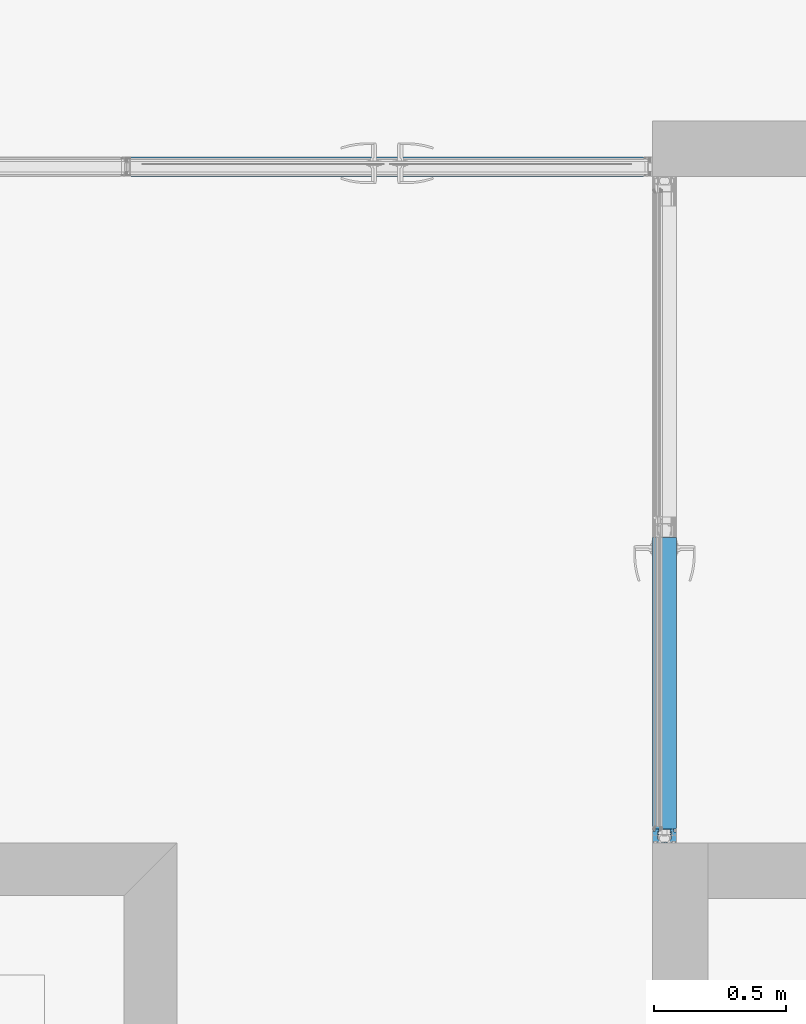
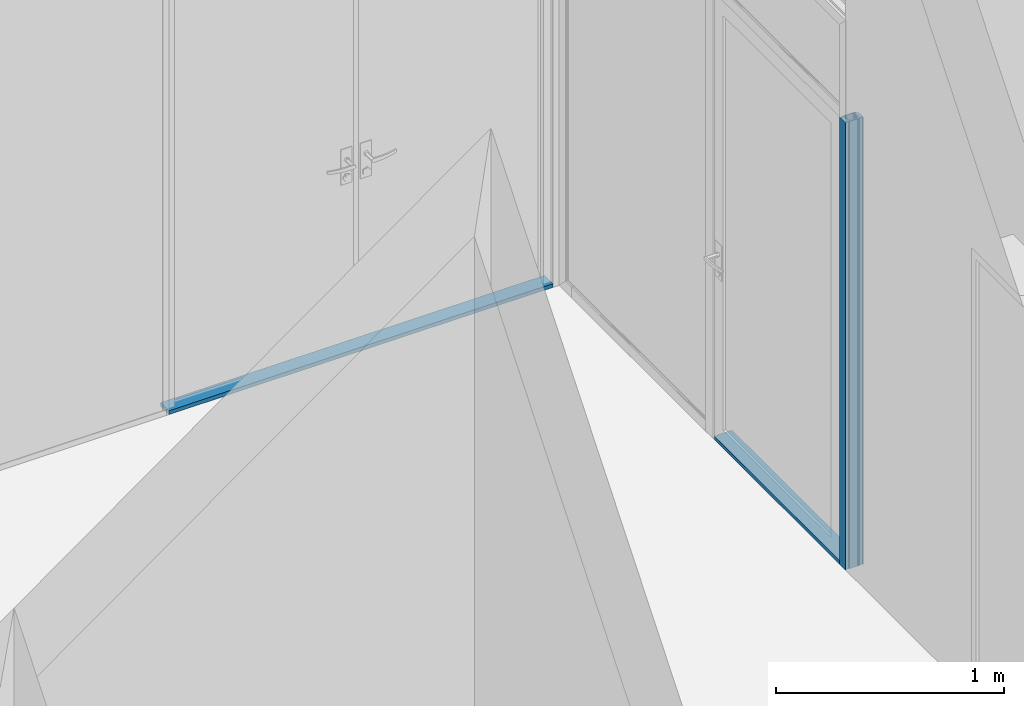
# One storey, part 6 of 62: 3 members, 2 elements without a shape of their own.
"""IFC2X3 building model written with IfcOpenShell, lengths in millimetres."""

from ifc_helpers import new_model, entity, si_unit, converted_unit, derived_unit, money_unit, direction, frame, origin_with_axes, place, context, subcontext, project, spatial, polyline, outline, extrude, material, type_object, element, aggregate, save


model = new_model("IFC2X3")

# Units and contexts
model_context = context("Model", 3, precision=0.01, world=origin_with_axes(), true_north=direction((0.0, 1.0)))
body_context = subcontext(model_context, "Body", "Model", "MODEL_VIEW")
ifc_project = project(units=[si_unit("LENGTHUNIT", "METRE", prefix="MILLI"), si_unit("AREAUNIT", "SQUARE_METRE"), si_unit("VOLUMEUNIT", "CUBIC_METRE"), converted_unit("PLANEANGLEUNIT", "DEGREE", entity("IfcPlaneAngleMeasure", 0.0174532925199), si_unit("PLANEANGLEUNIT", "RADIAN"), dimensions=[0, 0, 0, 0, 0, 0, 0]), si_unit("SOLIDANGLEUNIT", "STERADIAN"), money_unit("EUR"), converted_unit("TIMEUNIT", "Year", entity("IfcTimeMeasure", 31556926.0), si_unit("TIMEUNIT", "SECOND"), dimensions=[0, 0, 1, 0, 0, 0, 0]), si_unit("MASSUNIT", "GRAM", prefix="KILO"), si_unit("THERMODYNAMICTEMPERATUREUNIT", "DEGREE_CELSIUS"), si_unit("LUMINOUSINTENSITYUNIT", "LUMEN"), si_unit("ENERGYUNIT", "JOULE", prefix="MEGA"), derived_unit("THERMALCONDUCTANCEUNIT", [(si_unit("POWERUNIT", "WATT"), 1), (si_unit("LENGTHUNIT", "METRE"), -1), (si_unit("THERMODYNAMICTEMPERATUREUNIT", "KELVIN"), -1)]), derived_unit("SPECIFICHEATCAPACITYUNIT", [(si_unit("ENERGYUNIT", "JOULE"), 1), (si_unit("MASSUNIT", "GRAM", prefix="KILO"), -1), (si_unit("THERMODYNAMICTEMPERATUREUNIT", "KELVIN"), -1)]), derived_unit("MASSDENSITYUNIT", [(si_unit("MASSUNIT", "GRAM", prefix="KILO"), 1), (si_unit("VOLUMEUNIT", "CUBIC_METRE"), -1)])], contexts=[model_context])

# Site, building, storey
site_placement = place(None, origin_with_axes())
site = spatial("IfcSite", under=ifc_project, at=site_placement, Name="Puškini 31, Narva", CompositionType="ELEMENT")
building_placement = place(site_placement, origin_with_axes())
building = spatial("IfcBuilding", under=site, at=building_placement, Name="Narva Riigigümnaasium", CompositionType="ELEMENT")
storey_placement = place(building_placement, frame((0.0, 0.0, 660.0), z_axis=(0.0, 0.0, 1.0), x_axis=(1.0, 0.0, 0.0)))
storey = spatial("IfcBuildingStorey", under=building, at=storey_placement, Name="2.korrus +0.66", CompositionType="ELEMENT", Elevation=660.0)

# Curtain wall, members
curtain_wall_type = type_object("IfcCurtainWallType", Name="Curtain Wall Type", PredefinedType="NOTDEFINED")
curtain_wall_1_placement = place(storey_placement, frame((47544.998162, 221675.502168, -2.45869393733e-05), z_axis=(0.0, 0.0, 1.0), x_axis=(1.0, 0.0, 0.0)))
curtain_wall_1 = element("IfcCurtainWall", 1, at=curtain_wall_1_placement, inside=storey, type_object=curtain_wall_type, Name="G-SKLF-51")
ifc_material_1 = material(Name="ET-04_Alumiinium")
member_type_1 = type_object("IfcMemberType", Name="53 x 45", PredefinedType="MULLION")
member_1_placement = place(curtain_wall_1_placement, frame((0.00169612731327, -395.502325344, 0.0), z_axis=(0.0, 3.10440855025e-09, 1.0), x_axis=(-4.28853941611e-06, 0.999999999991, -3.10440855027e-09)))
member_1 = element("IfcMember", 2, at=member_1_placement, type_object=member_type_1, material=ifc_material_1, Name="G-SKLF-66-raam", ObjectType="MULLION", context=body_context, shape_type="SweptSolid", body=[
    extrude(outline(polyline([(40.4999927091, 1.70017368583), (41.5999999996, 0.000178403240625), (44.9999999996, 0.000192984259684), (44.9998220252, 41.5001929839), (36.199819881, 42.0001552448), (35.6997739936, 52.7001531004), (27.3997718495, 53.2001175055), (26.8998208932, 41.7641153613), (26.8998322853, 39.1077111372), (25.2466282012, 38.5812008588), (23.0016277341, 39.0000982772), (22.5016158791, 41.7644552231), (22.0016037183, 44.6000939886), (22.5015957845, 46.4500961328), (20.7016320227, 38.0000884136), (26.049905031, 36.9092037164), (26.2498606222, 32.5001125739), (22.6713959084, 33.3733023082), (20.8998567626, 33.4000896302), (20.6998653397, 31.4000887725), (22.4998653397, 31.4000964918), (25.3998730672, 29.59818514), (26.4979539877, 28.5001136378), (26.8998842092, 27.0001153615), (26.8999357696, 14.9772698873), (17.4195421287, 8.77605065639), (14.4499626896, 8.70006196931), (14.9499669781, 7.70006411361), (17.2399720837, 6.50954834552), (18.7399901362, 2.30008036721), (15.8499923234, 1.79006797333), (21.6999991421, 0.200093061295), (20.4999948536, 1.20008791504), (20.4999884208, 2.70008791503), (24.9999862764, 3.20010721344), (25.4999969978, 0.700109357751), (29.499999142, 0.200126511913), (27.9999927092, 1.70012007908), (26.9999828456, 4.00011579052), (41.9999785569, 5.0001801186), (42.9999884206, 2.70018440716), (40.4999927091, 1.70017368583)])), frame((0.0, 0.0, 0.0), z_axis=(0.0, 0.0, 1.0), x_axis=(-4.28853941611e-06, -0.999999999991, 0.0)), (0.0, 0.0, 1.0), 2400.00002459),
    extrude(outline(polyline([(11.5049479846, 2.40004933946), (-12.0049691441, 2.53392311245), (-13.3524988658, 4.59994273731), (-17.240027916, 6.50940047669), (-18.7400098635, 2.29991963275), (-15.8400077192, 1.79993206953), (15.0399991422, 0.200064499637), (18.2399922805, 1.80007822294), (18.7399757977, 5.64352937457), (15.1571568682, 5.3185695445), (11.5049479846, 2.40004933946)])), frame((0.0, 0.0, 0.0), z_axis=(0.0, 0.0, 1.0), x_axis=(-4.28853941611e-06, -0.999999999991, 0.0)), (0.0, 0.0, 1.0), 2400.00002459),
    extrude(outline(polyline([(-27.2132043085, 44.2348751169), (-24.7001796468, 43.1998940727), (-23.0049628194, 43.7247786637), (-22.7001913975, 47.2499026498), (-21.2001922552, 47.4499090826), (-21.0002040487, 50.1999099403), (20.7997726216, 50.4000892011), (20.9997844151, 47.6500900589), (22.4997852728, 47.4500964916), (22.6997974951, 44.6000973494), (24.699809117, 43.2001059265), (26.3950259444, 43.7249905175), (26.6997718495, 53.2001145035), (-26.7002281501, 53.1998854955), (-27.2132043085, 44.2348751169)])), frame((0.0, 0.0, 0.0), z_axis=(0.0, 0.0, 1.0), x_axis=(-4.28853941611e-06, -0.999999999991, 0.0)), (0.0, 0.0, 1.0), 2400.00002459),
    extrude(outline(polyline([(-44.9999999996, -0.000192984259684), (-41.5999999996, -0.000178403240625), (-40.500004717, 1.09982631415), (-42.0000072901, 1.69981988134), (-43.0000171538, 3.99981559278), (-28.0000214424, 4.99987992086), (-27.0000115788, 2.69988420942), (-30.5000072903, 1.69986919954), (-26.0000008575, 0.199888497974), (-25.5000115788, 2.69989064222), (-21.0000137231, 3.19990994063), (-20.5000051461, 1.19991208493), (-22.200005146, 1.19990479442), (-15.8500008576, 0.199932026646), (-18.5500076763, 1.78992044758), (-18.7500265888, 6.19991958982), (-15.1572024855, 5.31843954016), (-17.154657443, 8.69992643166), (-26.6650220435, 14.5530161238), (-26.9001157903, 26.999884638), (-26.4981984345, 28.4998863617), (-25.4001269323, 29.5979672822), (-23.900128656, 29.9998975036), (-20.70013466, 31.3999112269), (-20.7001423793, 33.1999112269), (-22.5716822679, 33.3999032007), (-25.050137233, 31.9998925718), (-26.2501574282, 36.7089794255), (-22.6658818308, 36.9089947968), (-20.7019319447, 46.6999108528), (-22.501910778, 41.7642622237), (-22.5019010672, 39.4999031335), (-24.8402241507, 38.9998931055), (-26.4939867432, 38.5795135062), (-26.9001791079, 41.7642437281), (-27.4001912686, 44.5998824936), (-26.9002260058, 52.6998846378), (-35.20022815, 53.1998490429), (-35.7001822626, 42.4998468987), (-42.2001801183, 41.9998190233), (-42.7002281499, 53.1998168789), (-45.0002281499, 53.1998070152), (-44.9999999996, -0.000192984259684)])), frame((0.0, 0.0, 0.0), z_axis=(0.0, 0.0, 1.0), x_axis=(-4.28853941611e-06, -0.999999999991, 0.0)), (0.0, 0.0, 1.0), 2400.00002459),
])
ifc_material_2 = material(Name="Alumiiniumprofiil")
member_type_2 = type_object("IfcMemberType", Name="20 x 90", PredefinedType="MULLION")
member_2_placement = place(curtain_wall_1_placement, frame((-0.00325715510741, 759.502197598, 0.0), z_axis=(4.28853941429e-06, -0.999999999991, 0.0), x_axis=(0.0, 0.0, 1.0)))
member_2 = element("IfcMember", 3, at=member_2_placement, type_object=member_type_2, material=ifc_material_2, Name="G-SKLF-51-raam", ObjectType="MULLION", context=body_context, shape_type="SweptSolid", body=[
    extrude(outline(polyline([(-45.0, -20.0), (45.0, -20.0), (45.0, 0.0), (-45.0, 0.0), (-45.0, -20.0)])), frame((0.0, 0.0, 0.0), z_axis=(0.0, 0.0, 1.0), x_axis=(0.0, 1.0, 0.0)), (0.0, 0.0, 1.0), 1102.0),
])
aggregate(curtain_wall_1, [member_2, member_1])

# Curtain wall, member
curtain_wall_2_placement = place(storey_placement, frame((45089.2571373, 223837.000216, -1.99739158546e-06), z_axis=(0.0, 0.0, 1.0), x_axis=(1.0, 0.0, 0.0)))
curtain_wall_2 = element("IfcCurtainWall", 4, at=curtain_wall_2_placement, inside=storey, type_object=curtain_wall_type, Name="G-SKLF-52")
member_type_3 = type_object("IfcMemberType", Name="20 x 74", PredefinedType="MULLION")
member_3_placement = place(curtain_wall_2_placement, frame((2410.74285627, 0.0, 0.0), z_axis=(-1.0, 0.0, 0.0), x_axis=(0.0, 0.0, 1.0)))
member_3 = element("IfcMember", 5, at=member_3_placement, type_object=member_type_3, material=ifc_material_1, Name="G-SKLF-69-raam", ObjectType="MULLION", context=body_context, shape_type="SweptSolid", body=[
    extrude(outline(polyline([(-37.0, -20.0), (37.0, -20.0), (37.0, 0.0), (-37.0, 0.0), (-37.0, -20.0)])), frame((0.0, 0.0, 30.0000193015), z_axis=(0.0, 0.0, 1.0), x_axis=(0.0, 1.0, 0.0)), (0.0, 0.0, 1.0), 1949.1999807),
])
aggregate(curtain_wall_2, [member_3])

save(model, "model.ifc")
